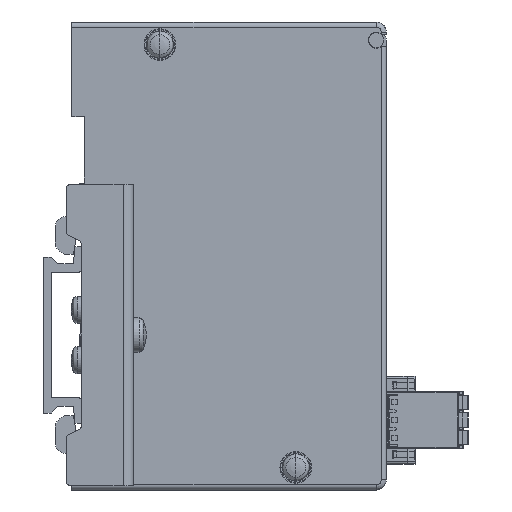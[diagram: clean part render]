
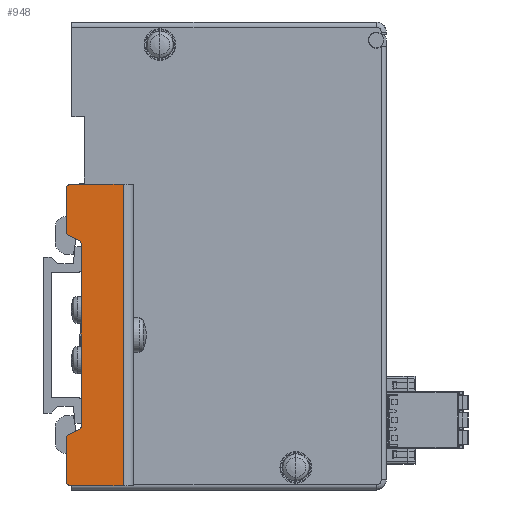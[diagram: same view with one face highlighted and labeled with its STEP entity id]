
A CAD part, left-side view. The second image highlights one B-rep face of the part: STEP entity #948.
In plain terms, the highlighted planar face has unit normal (-1, 0, 0).
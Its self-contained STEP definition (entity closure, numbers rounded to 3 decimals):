
#948=ADVANCED_FACE('',(#9059),#9058,.T.);
#9058=PLANE('',#15289);
#9059=FACE_OUTER_BOUND('',#15290,.T.);
#15286=CARTESIAN_POINT('',(-13.,-3.37,-36.));
#15287=DIRECTION('',(-1.,0.,0.));
#15288=DIRECTION('',(0.,-1.,0.));
#15289=AXIS2_PLACEMENT_3D('',#15286,#15287,#15288);
#15290=EDGE_LOOP('',(#20238,#20239,#20240,#20241,#20242,#20243,#20244,#20245,#20246,#20247,#20248,#20249,#20250,#20251));
#20238=ORIENTED_EDGE('',*,*,#22985,.F.);
#20239=ORIENTED_EDGE('',*,*,#22986,.T.);
#20240=ORIENTED_EDGE('',*,*,#22987,.T.);
#20241=ORIENTED_EDGE('',*,*,#22988,.T.);
#20242=ORIENTED_EDGE('',*,*,#22989,.F.);
#20243=ORIENTED_EDGE('',*,*,#22990,.T.);
#20244=ORIENTED_EDGE('',*,*,#22991,.T.);
#20245=ORIENTED_EDGE('',*,*,#22992,.T.);
#20246=ORIENTED_EDGE('',*,*,#22993,.T.);
#20247=ORIENTED_EDGE('',*,*,#22994,.T.);
#20248=ORIENTED_EDGE('',*,*,#22995,.T.);
#20249=ORIENTED_EDGE('',*,*,#22996,.F.);
#20250=ORIENTED_EDGE('',*,*,#22997,.T.);
#20251=ORIENTED_EDGE('',*,*,#22998,.F.);
#22985=EDGE_CURVE('',#37031,#37032,#37033,.T.);
#22986=EDGE_CURVE('',#37031,#37039,#37040,.T.);
#22987=EDGE_CURVE('',#37039,#37046,#37047,.T.);
#22988=EDGE_CURVE('',#37046,#37053,#37054,.T.);
#22989=EDGE_CURVE('',#37060,#37053,#37061,.T.);
#22990=EDGE_CURVE('',#37060,#37067,#37068,.T.);
#22991=EDGE_CURVE('',#37067,#37074,#37075,.T.);
#22992=EDGE_CURVE('',#37074,#37081,#37082,.T.);
#22993=EDGE_CURVE('',#37081,#37088,#37089,.T.);
#22994=EDGE_CURVE('',#37088,#37095,#37096,.T.);
#22995=EDGE_CURVE('',#37095,#37102,#37103,.T.);
#22996=EDGE_CURVE('',#37109,#37102,#37110,.T.);
#22997=EDGE_CURVE('',#37109,#37116,#37117,.T.);
#22998=EDGE_CURVE('',#37032,#37116,#37123,.T.);
#37031=VERTEX_POINT('',#47312);
#37032=VERTEX_POINT('',#47313);
#37033=LINE('',#47314,#47315);
#37039=VERTEX_POINT('',#47317);
#37040=CIRCLE('',#47321,1.);
#37046=VERTEX_POINT('',#47322);
#37047=LINE('',#47323,#47324);
#37053=VERTEX_POINT('',#47326);
#37054=CIRCLE('',#47330,1.);
#37060=VERTEX_POINT('',#47331);
#37061=LINE('',#47332,#47333);
#37067=VERTEX_POINT('',#47335);
#37068=LINE('',#47336,#47337);
#37074=VERTEX_POINT('',#47339);
#37075=LINE('',#47340,#47341);
#37081=VERTEX_POINT('',#47343);
#37082=CIRCLE('',#47347,1.);
#37088=VERTEX_POINT('',#47348);
#37089=LINE('',#47349,#47350);
#37095=VERTEX_POINT('',#47352);
#37096=CIRCLE('',#47356,1.);
#37102=VERTEX_POINT('',#47357);
#37103=LINE('',#47358,#47359);
#37109=VERTEX_POINT('',#47361);
#37110=CIRCLE('',#47365,1.);
#37116=VERTEX_POINT('',#47366);
#37117=LINE('',#47367,#47368);
#37123=CIRCLE('',#47373,1.);
#47312=CARTESIAN_POINT('',(-13.,-5.077,-19.73));
#47313=CARTESIAN_POINT('',(-13.,-6.923,-18.869));
#47314=CARTESIAN_POINT('',(-13.,-5.077,-19.73));
#47315=VECTOR('',#47316,2.036);
#47316=DIRECTION('',(0.,-0.906,0.423));
#47317=CARTESIAN_POINT('',(-13.,-4.5,-20.636));
#47318=CARTESIAN_POINT('',(-13.,-5.5,-20.636));
#47319=DIRECTION('',(-1.,0.,0.));
#47320=DIRECTION('',(0.,0.,1.));
#47321=AXIS2_PLACEMENT_3D('',#47318,#47319,#47320);
#47322=CARTESIAN_POINT('',(-13.,-4.5,-29.));
#47323=CARTESIAN_POINT('',(-13.,-4.5,-20.636));
#47324=VECTOR('',#47325,8.364);
#47325=DIRECTION('',(0.,0.,-1.));
#47326=CARTESIAN_POINT('',(-13.,-5.5,-30.));
#47327=CARTESIAN_POINT('',(-13.,-5.5,-29.));
#47328=DIRECTION('',(-1.,0.,0.));
#47329=DIRECTION('',(0.,0.,1.));
#47330=AXIS2_PLACEMENT_3D('',#47327,#47328,#47329);
#47331=CARTESIAN_POINT('',(-13.,-15.8,-30.));
#47332=CARTESIAN_POINT('',(-13.,-15.8,-30.));
#47333=VECTOR('',#47334,10.3);
#47334=DIRECTION('',(0.,1.,0.));
#47335=CARTESIAN_POINT('',(-13.,-15.8,30.));
#47336=CARTESIAN_POINT('',(-13.,-15.8,-30.));
#47337=VECTOR('',#47338,60.);
#47338=DIRECTION('',(0.,0.,1.));
#47339=CARTESIAN_POINT('',(-13.,-5.5,30.));
#47340=CARTESIAN_POINT('',(-13.,-15.8,30.));
#47341=VECTOR('',#47342,10.3);
#47342=DIRECTION('',(0.,1.,0.));
#47343=CARTESIAN_POINT('',(-13.,-4.5,29.));
#47344=CARTESIAN_POINT('',(-13.,-5.5,29.));
#47345=DIRECTION('',(-1.,0.,0.));
#47346=DIRECTION('',(0.,0.,1.));
#47347=AXIS2_PLACEMENT_3D('',#47344,#47345,#47346);
#47348=CARTESIAN_POINT('',(-13.,-4.5,20.636));
#47349=CARTESIAN_POINT('',(-13.,-4.5,29.));
#47350=VECTOR('',#47351,8.364);
#47351=DIRECTION('',(0.,0.,-1.));
#47352=CARTESIAN_POINT('',(-13.,-5.077,19.73));
#47353=CARTESIAN_POINT('',(-13.,-5.5,20.636));
#47354=DIRECTION('',(-1.,0.,0.));
#47355=DIRECTION('',(0.,0.,1.));
#47356=AXIS2_PLACEMENT_3D('',#47353,#47354,#47355);
#47357=CARTESIAN_POINT('',(-13.,-6.923,18.869));
#47358=CARTESIAN_POINT('',(-13.,-5.077,19.73));
#47359=VECTOR('',#47360,2.036);
#47360=DIRECTION('',(0.,-0.906,-0.423));
#47361=CARTESIAN_POINT('',(-13.,-7.5,17.963));
#47362=CARTESIAN_POINT('',(-13.,-6.5,17.963));
#47363=DIRECTION('',(-1.,0.,0.));
#47364=DIRECTION('',(0.,0.,1.));
#47365=AXIS2_PLACEMENT_3D('',#47362,#47363,#47364);
#47366=CARTESIAN_POINT('',(-13.,-7.5,-17.963));
#47367=CARTESIAN_POINT('',(-13.,-7.5,17.963));
#47368=VECTOR('',#47369,35.926);
#47369=DIRECTION('',(0.,0.,-1.));
#47370=CARTESIAN_POINT('',(-13.,-6.5,-17.963));
#47371=DIRECTION('',(-1.,0.,0.));
#47372=DIRECTION('',(0.,0.,1.));
#47373=AXIS2_PLACEMENT_3D('',#47370,#47371,#47372);
